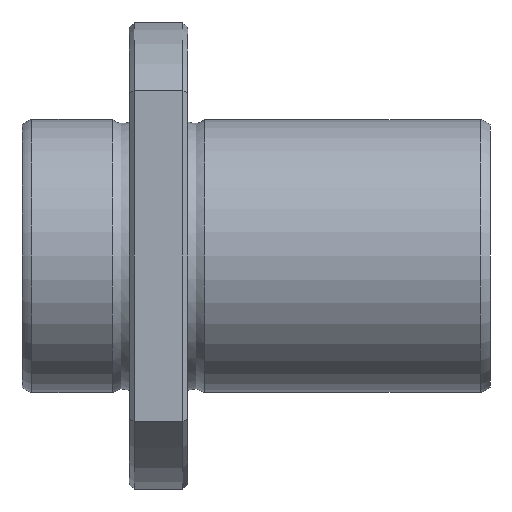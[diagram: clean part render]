
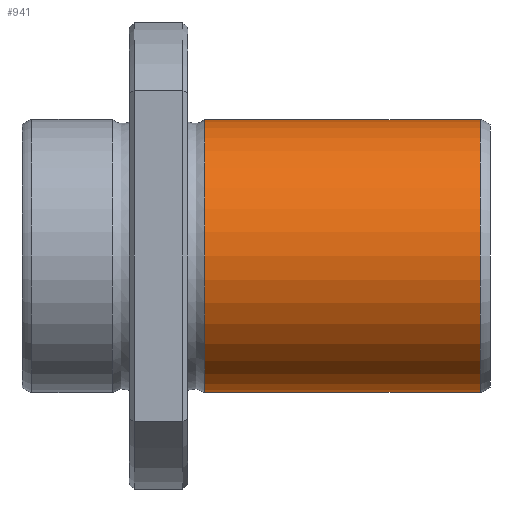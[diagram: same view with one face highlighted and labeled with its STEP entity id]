
A CAD part, front view. The second image highlights one B-rep face of the part: STEP entity #941.
In plain terms, the highlighted cylindrical face has radius 14 mm (diameter 28 mm), a full revolution.
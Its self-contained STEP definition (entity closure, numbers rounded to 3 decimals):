
#907=CARTESIAN_POINT('',(46.999,0.0,14.));
#908=VERTEX_POINT('',#907);
#909=CARTESIAN_POINT('',(46.999,0.0,0.0));
#910=DIRECTION('',(-1.0,0.0,0.0));
#911=DIRECTION('',(0.0,0.0,1.0));
#912=AXIS2_PLACEMENT_3D('',#909,#910,#911);
#913=CIRCLE('',#912,14.);
#914=EDGE_CURVE('',#908,#908,#913,.T.);
#922=CARTESIAN_POINT('',(32.859,0.0,0.0));
#923=DIRECTION('',(-1.0,0.0,0.0));
#924=DIRECTION('',(0.0,0.0,1.0));
#925=AXIS2_PLACEMENT_3D('',#922,#923,#924);
#926=CYLINDRICAL_SURFACE('',#925,14.);
#927=CARTESIAN_POINT('',(18.72,0.0,14.));
#928=VERTEX_POINT('',#927);
#929=CARTESIAN_POINT('',(18.72,0.0,0.0));
#930=DIRECTION('',(-1.0,0.0,0.0));
#931=DIRECTION('',(0.0,0.0,1.0));
#932=AXIS2_PLACEMENT_3D('',#929,#930,#931);
#933=CIRCLE('',#932,14.);
#934=EDGE_CURVE('',#928,#928,#933,.T.);
#935=ORIENTED_EDGE('',*,*,#934,.F.);
#936=EDGE_LOOP('',(#935));
#937=FACE_OUTER_BOUND('',#936,.T.);
#938=ORIENTED_EDGE('',*,*,#914,.T.);
#939=EDGE_LOOP('',(#938));
#940=FACE_BOUND('',#939,.T.);
#941=ADVANCED_FACE('',(#937,#940),#926,.T.);
